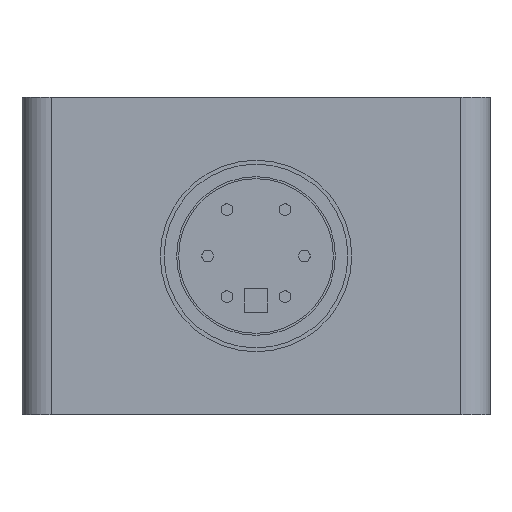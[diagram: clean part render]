
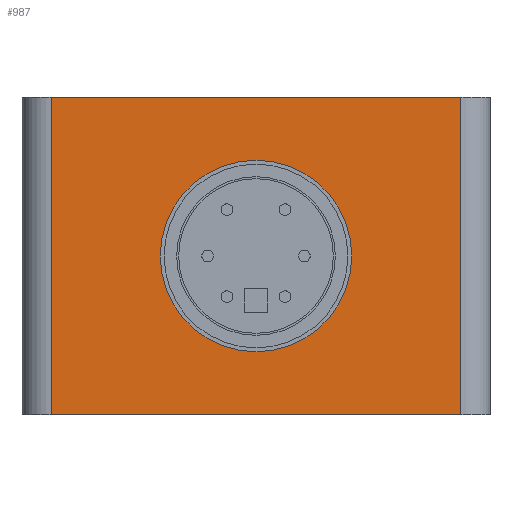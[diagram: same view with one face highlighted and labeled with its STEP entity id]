
A CAD part, front view. The second image highlights one B-rep face of the part: STEP entity #987.
In plain terms, the highlighted planar face has unit normal (0, -1, 0).
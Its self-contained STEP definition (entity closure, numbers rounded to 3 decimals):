
#242 = PLANE('',#243);
#243 = AXIS2_PLACEMENT_3D('',#244,#245,#246);
#244 = CARTESIAN_POINT('',(-2.1,-54.,12.2));
#245 = DIRECTION('',(0.,0.,1.));
#246 = DIRECTION('',(1.,0.,0.));
#270 = CYLINDRICAL_SURFACE('',#271,1.5);
#271 = AXIS2_PLACEMENT_3D('',#272,#273,#274);
#272 = CARTESIAN_POINT('',(-0.6,-52.5,-4.2));
#273 = DIRECTION('',(0.,0.,1.));
#274 = DIRECTION('',(-1.,-0.,0.));
#298 = PLANE('',#299);
#299 = AXIS2_PLACEMENT_3D('',#300,#301,#302);
#300 = CARTESIAN_POINT('',(-2.1,-54.,-4.2));
#301 = DIRECTION('',(0.,0.,1.));
#302 = DIRECTION('',(1.,0.,0.));
#341 = VERTEX_POINT('',#342);
#342 = CARTESIAN_POINT('',(-0.6,-54.,12.2));
#364 = EDGE_CURVE('',#341,#365,#367,.T.);
#365 = VERTEX_POINT('',#366);
#366 = CARTESIAN_POINT('',(20.6,-54.,12.2));
#367 = SURFACE_CURVE('',#368,(#372,#379),.PCURVE_S1.);
#368 = LINE('',#369,#370);
#369 = CARTESIAN_POINT('',(-2.1,-54.,12.2));
#370 = VECTOR('',#371,1.);
#371 = DIRECTION('',(1.,0.,0.));
#372 = PCURVE('',#242,#373);
#373 = DEFINITIONAL_REPRESENTATION('',(#374),#378);
#374 = LINE('',#375,#376);
#375 = CARTESIAN_POINT('',(0.,0.));
#376 = VECTOR('',#377,1.);
#377 = DIRECTION('',(1.,0.));
#378 = ( GEOMETRIC_REPRESENTATION_CONTEXT(2) 
PARAMETRIC_REPRESENTATION_CONTEXT() REPRESENTATION_CONTEXT('2D SPACE',''
  ) );
#379 = PCURVE('',#380,#385);
#380 = PLANE('',#381);
#381 = AXIS2_PLACEMENT_3D('',#382,#383,#384);
#382 = CARTESIAN_POINT('',(-2.1,-54.,-4.2));
#383 = DIRECTION('',(0.,1.,0.));
#384 = DIRECTION('',(0.,0.,1.));
#385 = DEFINITIONAL_REPRESENTATION('',(#386),#390);
#386 = LINE('',#387,#388);
#387 = CARTESIAN_POINT('',(16.4,0.));
#388 = VECTOR('',#389,1.);
#389 = DIRECTION('',(0.,1.));
#390 = ( GEOMETRIC_REPRESENTATION_CONTEXT(2) 
PARAMETRIC_REPRESENTATION_CONTEXT() REPRESENTATION_CONTEXT('2D SPACE',''
  ) );
#413 = CYLINDRICAL_SURFACE('',#414,1.5);
#414 = AXIS2_PLACEMENT_3D('',#415,#416,#417);
#415 = CARTESIAN_POINT('',(20.6,-52.5,-4.2));
#416 = DIRECTION('',(0.,0.,1.));
#417 = DIRECTION('',(1.,0.,-0.));
#651 = VERTEX_POINT('',#652);
#652 = CARTESIAN_POINT('',(-0.6,-54.,-4.2));
#674 = EDGE_CURVE('',#651,#341,#675,.T.);
#675 = SURFACE_CURVE('',#676,(#680,#687),.PCURVE_S1.);
#676 = LINE('',#677,#678);
#677 = CARTESIAN_POINT('',(-0.6,-54.,-4.2));
#678 = VECTOR('',#679,1.);
#679 = DIRECTION('',(0.,0.,1.));
#680 = PCURVE('',#270,#681);
#681 = DEFINITIONAL_REPRESENTATION('',(#682),#686);
#682 = LINE('',#683,#684);
#683 = CARTESIAN_POINT('',(1.571,0.));
#684 = VECTOR('',#685,1.);
#685 = DIRECTION('',(0.,1.));
#686 = ( GEOMETRIC_REPRESENTATION_CONTEXT(2) 
PARAMETRIC_REPRESENTATION_CONTEXT() REPRESENTATION_CONTEXT('2D SPACE',''
  ) );
#687 = PCURVE('',#380,#688);
#688 = DEFINITIONAL_REPRESENTATION('',(#689),#693);
#689 = LINE('',#690,#691);
#690 = CARTESIAN_POINT('',(0.,1.5));
#691 = VECTOR('',#692,1.);
#692 = DIRECTION('',(1.,0.));
#693 = ( GEOMETRIC_REPRESENTATION_CONTEXT(2) 
PARAMETRIC_REPRESENTATION_CONTEXT() REPRESENTATION_CONTEXT('2D SPACE',''
  ) );
#868 = EDGE_CURVE('',#651,#869,#871,.T.);
#869 = VERTEX_POINT('',#870);
#870 = CARTESIAN_POINT('',(20.6,-54.,-4.2));
#871 = SURFACE_CURVE('',#872,(#876,#883),.PCURVE_S1.);
#872 = LINE('',#873,#874);
#873 = CARTESIAN_POINT('',(-2.1,-54.,-4.2));
#874 = VECTOR('',#875,1.);
#875 = DIRECTION('',(1.,0.,0.));
#876 = PCURVE('',#298,#877);
#877 = DEFINITIONAL_REPRESENTATION('',(#878),#882);
#878 = LINE('',#879,#880);
#879 = CARTESIAN_POINT('',(0.,0.));
#880 = VECTOR('',#881,1.);
#881 = DIRECTION('',(1.,0.));
#882 = ( GEOMETRIC_REPRESENTATION_CONTEXT(2) 
PARAMETRIC_REPRESENTATION_CONTEXT() REPRESENTATION_CONTEXT('2D SPACE',''
  ) );
#883 = PCURVE('',#380,#884);
#884 = DEFINITIONAL_REPRESENTATION('',(#885),#889);
#885 = LINE('',#886,#887);
#886 = CARTESIAN_POINT('',(0.,0.));
#887 = VECTOR('',#888,1.);
#888 = DIRECTION('',(0.,1.));
#889 = ( GEOMETRIC_REPRESENTATION_CONTEXT(2) 
PARAMETRIC_REPRESENTATION_CONTEXT() REPRESENTATION_CONTEXT('2D SPACE',''
  ) );
#987 = ADVANCED_FACE('',(#988,#1014),#380,.F.);
#988 = FACE_BOUND('',#989,.F.);
#989 = EDGE_LOOP('',(#990,#991,#992,#993));
#990 = ORIENTED_EDGE('',*,*,#868,.F.);
#991 = ORIENTED_EDGE('',*,*,#674,.T.);
#992 = ORIENTED_EDGE('',*,*,#364,.T.);
#993 = ORIENTED_EDGE('',*,*,#994,.F.);
#994 = EDGE_CURVE('',#869,#365,#995,.T.);
#995 = SURFACE_CURVE('',#996,(#1000,#1007),.PCURVE_S1.);
#996 = LINE('',#997,#998);
#997 = CARTESIAN_POINT('',(20.6,-54.,-4.2));
#998 = VECTOR('',#999,1.);
#999 = DIRECTION('',(0.,0.,1.));
#1000 = PCURVE('',#380,#1001);
#1001 = DEFINITIONAL_REPRESENTATION('',(#1002),#1006);
#1002 = LINE('',#1003,#1004);
#1003 = CARTESIAN_POINT('',(0.,22.7));
#1004 = VECTOR('',#1005,1.);
#1005 = DIRECTION('',(1.,0.));
#1006 = ( GEOMETRIC_REPRESENTATION_CONTEXT(2) 
PARAMETRIC_REPRESENTATION_CONTEXT() REPRESENTATION_CONTEXT('2D SPACE',''
  ) );
#1007 = PCURVE('',#413,#1008);
#1008 = DEFINITIONAL_REPRESENTATION('',(#1009),#1013);
#1009 = LINE('',#1010,#1011);
#1010 = CARTESIAN_POINT('',(-1.571,0.));
#1011 = VECTOR('',#1012,1.);
#1012 = DIRECTION('',(-0.,1.));
#1013 = ( GEOMETRIC_REPRESENTATION_CONTEXT(2) 
PARAMETRIC_REPRESENTATION_CONTEXT() REPRESENTATION_CONTEXT('2D SPACE',''
  ) );
#1014 = FACE_BOUND('',#1015,.F.);
#1015 = EDGE_LOOP('',(#1016));
#1016 = ORIENTED_EDGE('',*,*,#1017,.T.);
#1017 = EDGE_CURVE('',#1018,#1018,#1020,.T.);
#1018 = VERTEX_POINT('',#1019);
#1019 = CARTESIAN_POINT('',(14.95,-54.,4.));
#1020 = SURFACE_CURVE('',#1021,(#1026,#1037),.PCURVE_S1.);
#1021 = CIRCLE('',#1022,4.95);
#1022 = AXIS2_PLACEMENT_3D('',#1023,#1024,#1025);
#1023 = CARTESIAN_POINT('',(10.,-54.,4.));
#1024 = DIRECTION('',(0.,-1.,-0.));
#1025 = DIRECTION('',(1.,0.,0.));
#1026 = PCURVE('',#380,#1027);
#1027 = DEFINITIONAL_REPRESENTATION('',(#1028),#1036);
#1028 = ( BOUNDED_CURVE() B_SPLINE_CURVE(2,(#1029,#1030,#1031,#1032,
#1033,#1034,#1035),.UNSPECIFIED.,.T.,.F.) B_SPLINE_CURVE_WITH_KNOTS((1,2
    ,2,2,2,1),(-2.094,0.,2.094,4.189,
6.283,8.378),.UNSPECIFIED.) CURVE() 
GEOMETRIC_REPRESENTATION_ITEM() RATIONAL_B_SPLINE_CURVE((1.,0.5,1.,0.5,
1.,0.5,1.)) REPRESENTATION_ITEM('') );
#1029 = CARTESIAN_POINT('',(8.2,17.05));
#1030 = CARTESIAN_POINT('',(16.774,17.05));
#1031 = CARTESIAN_POINT('',(12.487,9.625));
#1032 = CARTESIAN_POINT('',(8.2,2.2));
#1033 = CARTESIAN_POINT('',(3.913,9.625));
#1034 = CARTESIAN_POINT('',(-0.374,17.05));
#1035 = CARTESIAN_POINT('',(8.2,17.05));
#1036 = ( GEOMETRIC_REPRESENTATION_CONTEXT(2) 
PARAMETRIC_REPRESENTATION_CONTEXT() REPRESENTATION_CONTEXT('2D SPACE',''
  ) );
#1037 = PCURVE('',#1038,#1043);
#1038 = CYLINDRICAL_SURFACE('',#1039,4.95);
#1039 = AXIS2_PLACEMENT_3D('',#1040,#1041,#1042);
#1040 = CARTESIAN_POINT('',(10.,-54.1,4.));
#1041 = DIRECTION('',(0.,-1.,-0.));
#1042 = DIRECTION('',(1.,0.,0.));
#1043 = DEFINITIONAL_REPRESENTATION('',(#1044),#1048);
#1044 = LINE('',#1045,#1046);
#1045 = CARTESIAN_POINT('',(-6.283,-0.1));
#1046 = VECTOR('',#1047,1.);
#1047 = DIRECTION('',(1.,-0.));
#1048 = ( GEOMETRIC_REPRESENTATION_CONTEXT(2) 
PARAMETRIC_REPRESENTATION_CONTEXT() REPRESENTATION_CONTEXT('2D SPACE',''
  ) );
